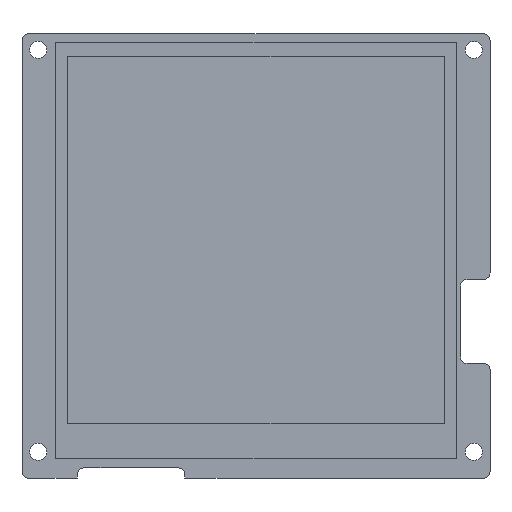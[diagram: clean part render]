
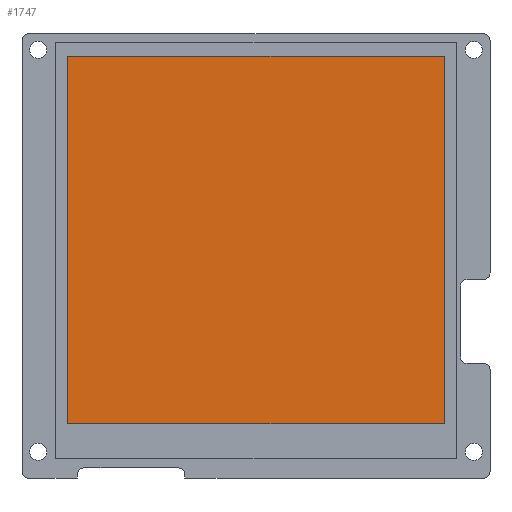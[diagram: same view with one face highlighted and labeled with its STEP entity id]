
A CAD part, top view. The second image highlights one B-rep face of the part: STEP entity #1747.
In plain terms, the highlighted planar face has unit normal (0, 0, 1).
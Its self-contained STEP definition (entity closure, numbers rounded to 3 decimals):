
#602=DIRECTION('',(0.,1.,0.));
#603=VECTOR('',#602,71.176);
#604=CARTESIAN_POINT('',(36.426,-33.509,5.7));
#605=LINE('',#604,#603);
#606=DIRECTION('',(1.,0.,0.));
#607=VECTOR('',#606,72.856);
#608=CARTESIAN_POINT('',(-36.43,-33.509,5.7));
#609=LINE('',#608,#607);
#610=DIRECTION('',(0.,-1.,0.));
#611=VECTOR('',#610,71.176);
#612=CARTESIAN_POINT('',(-36.43,37.667,5.7));
#613=LINE('',#612,#611);
#614=DIRECTION('',(-1.,0.,0.));
#615=VECTOR('',#614,72.856);
#616=CARTESIAN_POINT('',(36.426,37.667,5.7));
#617=LINE('',#616,#615);
#820=CARTESIAN_POINT('',(36.426,-33.509,5.7));
#821=CARTESIAN_POINT('',(36.426,37.667,5.7));
#822=VERTEX_POINT('',#820);
#823=VERTEX_POINT('',#821);
#824=CARTESIAN_POINT('',(-36.43,37.667,5.7));
#825=VERTEX_POINT('',#824);
#826=CARTESIAN_POINT('',(-36.43,-33.509,5.7));
#827=VERTEX_POINT('',#826);
#1736=CARTESIAN_POINT('',(0.,0.,5.7));
#1737=DIRECTION('',(0.,0.,1.));
#1738=DIRECTION('',(1.,0.,0.));
#1739=AXIS2_PLACEMENT_3D('',#1736,#1737,#1738);
#1740=PLANE('',#1739);
#1741=ORIENTED_EDGE('',*,*,#1688,.F.);
#1742=ORIENTED_EDGE('',*,*,#1703,.F.);
#1743=ORIENTED_EDGE('',*,*,#1717,.F.);
#1744=ORIENTED_EDGE('',*,*,#1730,.F.);
#1745=EDGE_LOOP('',(#1741,#1742,#1743,#1744));
#1746=FACE_OUTER_BOUND('',#1745,.F.);
#1688=EDGE_CURVE('',#822,#823,#605,.T.);
#1703=EDGE_CURVE('',#827,#822,#609,.T.);
#1717=EDGE_CURVE('',#825,#827,#613,.T.);
#1730=EDGE_CURVE('',#823,#825,#617,.T.);
#1747=ADVANCED_FACE('',(#1746),#1740,.T.);
